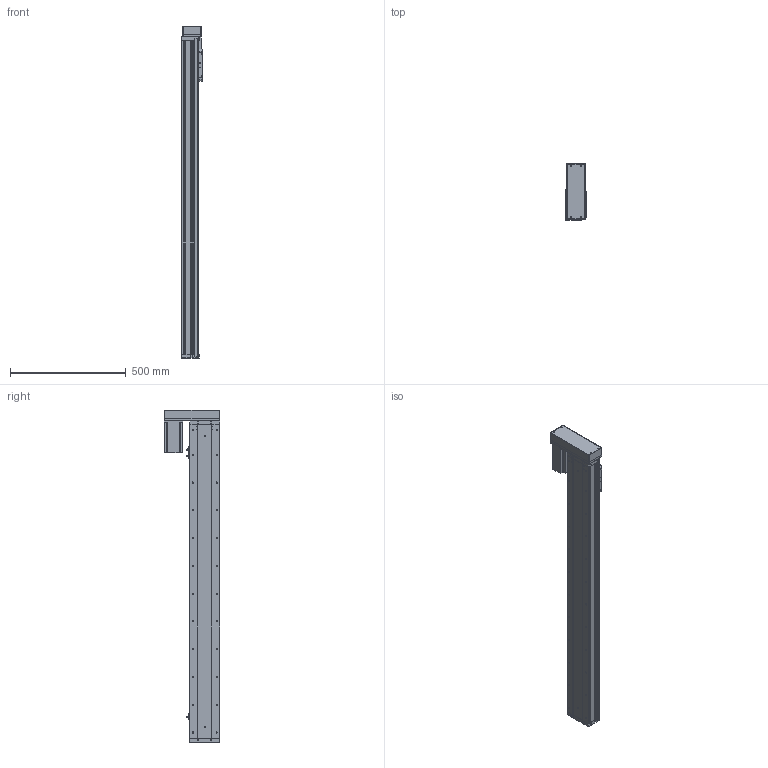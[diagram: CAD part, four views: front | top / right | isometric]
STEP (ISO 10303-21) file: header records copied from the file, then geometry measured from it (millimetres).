
FILE_DESCRIPTION (( 'STEP AP214' ), '1' );
FILE_NAME ('KSD130S-P2010-ML-CR-S1150.STEP', '2019-09-24T06:55:01', ( '微软用户' ), ( '微软中国' ), 'SwSTEP 2.0', 'SolidWorks 2014', '' );
FILE_SCHEMA (( 'AUTOMOTIVE_DESIGN' ));
Length unit declared in the file: millimetre
Products named in the file (14): 130宽盖板全封闭-1150行程; 130宽滚珠螺姆安装板1防护罩; 130宽滚珠螺姆安装板1; 130宽侧板全封闭-1150行程; 130宽全封闭马达安装板丝杠; 130宽全封闭端盖丝杠; 130宽底板全封闭丝杠-1150行程; KSD130S-P2010-ML-CR-S1150; 130宽模组保护罩左右折; 台达ECMA－C20807AS伺服电机; 130宽模组马达安装板连板左右折丝杆; 感应片130宽全封闭; U倰嫖萇EEㄜSX672; 130遵裔啣揤啣1
Assembly tree (17 placements, depth 2):
  KSD130S-P2010-ML-CR-S1150
    130宽底板全封闭丝杠-1150行程
    130宽全封闭端盖丝杠
    130宽全封闭马达安装板丝杠
    130宽侧板全封闭-1150行程  x2
    130宽滚珠螺姆安装板1
    130宽滚珠螺姆安装板1防护罩
    130宽盖板全封闭-1150行程
    130遵裔啣揤啣1  x2
    U倰嫖萇EEㄜSX672  x3
    感应片130宽全封闭
    130宽模组马达安装板连板左右折丝杆
    台达ECMA－C20807AS伺服电机
    130宽模组保护罩左右折
Bounding box: 90 x 240 x 1434.5 mm (x, y, z)
Volume: 4938764.3 mm3; surface area: 1621540.5 mm2
Topology: 18 solids, 18 shells, 1590 faces, 4312 edges, 2685 vertices
Faces by surface type: cylinder 716, plane 611, cone 263
Entity records: 48714 total; most frequent: DIRECTION 7431, CARTESIAN_POINT 7233, ORIENTED_EDGE 6806, EDGE_CURVE 3403, AXIS2_PLACEMENT_3D 2699, VERTEX_POINT 2215, LINE 2033, VECTOR 2033
